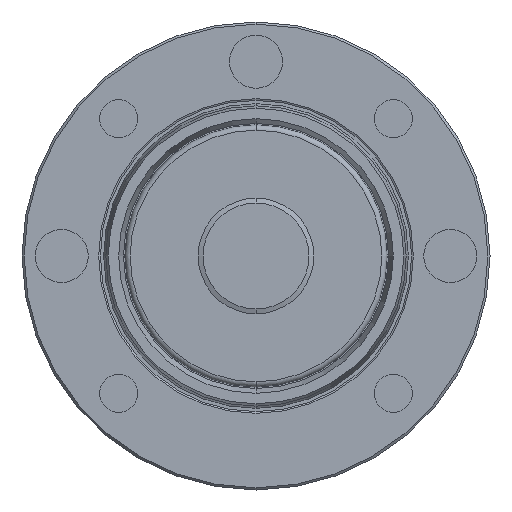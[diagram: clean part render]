
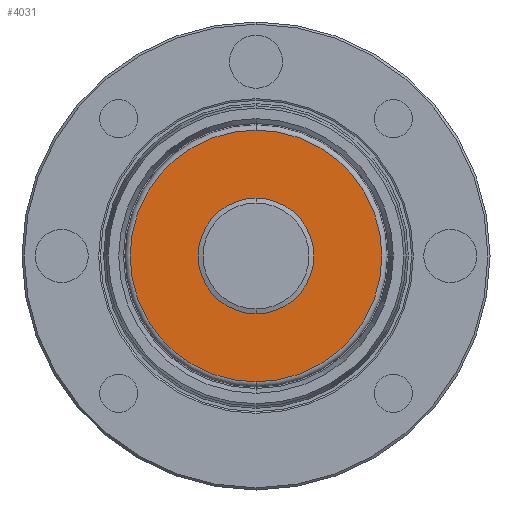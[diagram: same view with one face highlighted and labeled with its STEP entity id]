
A CAD part, front view. The second image highlights one B-rep face of the part: STEP entity #4031.
In plain terms, the highlighted planar face has unit normal (0, -1, 0).
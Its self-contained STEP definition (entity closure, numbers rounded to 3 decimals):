
#301 = DIRECTION ( 'NONE',  ( 0., 0., 1. ) ) ;
#302 = DIRECTION ( 'NONE',  ( 0., -1., 0. ) ) ;
#314 = CIRCLE ( 'NONE', #321, 14.25 ) ;
#321 = AXIS2_PLACEMENT_3D ( 'NONE', #323, #302, #301 ) ;
#323 = CARTESIAN_POINT ( 'NONE',  ( 0., -9.5, 0. ) ) ;
#380 = CARTESIAN_POINT ( 'NONE',  ( 0., -9.5, -14.25 ) ) ;
#422 = DIRECTION ( 'NONE',  ( 0., 0., 1. ) ) ;
#423 = DIRECTION ( 'NONE',  ( 0., 1., 0. ) ) ;
#424 = CARTESIAN_POINT ( 'NONE',  ( 0., -9.5, 0. ) ) ;
#426 = AXIS2_PLACEMENT_3D ( 'NONE', #424, #423, #422 ) ;
#431 = CIRCLE ( 'NONE', #426, 6.549 ) ;
#434 = CARTESIAN_POINT ( 'NONE',  ( 0., -9.5, 6.549 ) ) ;
#439 = CARTESIAN_POINT ( 'NONE',  ( 0., -9.5, -6.549 ) ) ;
#589 = AXIS2_PLACEMENT_3D ( 'NONE', #629, #670, #669 ) ;
#609 = CIRCLE ( 'NONE', #666, 6.549 ) ;
#613 = CIRCLE ( 'NONE', #589, 14.25 ) ;
#616 = DIRECTION ( 'NONE',  ( 0., 0., 1. ) ) ;
#617 = DIRECTION ( 'NONE',  ( 0., 1., 0. ) ) ;
#619 = AXIS2_PLACEMENT_3D ( 'NONE', #631, #617, #616 ) ;
#624 = FACE_BOUND ( 'NONE', #4038, .T. ) ;
#628 = PLANE ( 'NONE',  #619 ) ;
#629 = CARTESIAN_POINT ( 'NONE',  ( 0., -9.5, 0. ) ) ;
#631 = CARTESIAN_POINT ( 'NONE',  ( 14.85, -9.5, 0. ) ) ;
#636 = FACE_OUTER_BOUND ( 'NONE', #3992, .T. ) ;
#663 = DIRECTION ( 'NONE',  ( 0., 0., 1. ) ) ;
#664 = DIRECTION ( 'NONE',  ( 0., 1., 0. ) ) ;
#665 = CARTESIAN_POINT ( 'NONE',  ( 0., -9.5, 0. ) ) ;
#666 = AXIS2_PLACEMENT_3D ( 'NONE', #665, #664, #663 ) ;
#669 = DIRECTION ( 'NONE',  ( 0., 0., 1. ) ) ;
#670 = DIRECTION ( 'NONE',  ( 0., -1., 0. ) ) ;
#3835 = VERTEX_POINT ( 'NONE', #7723 ) ;
#3869 = EDGE_CURVE ( 'NONE', #3904, #3835, #314, .T. ) ;
#3904 = VERTEX_POINT ( 'NONE', #380 ) ;
#3936 = EDGE_CURVE ( 'NONE', #3937, #3939, #431, .T. ) ;
#3937 = VERTEX_POINT ( 'NONE', #434 ) ;
#3939 = VERTEX_POINT ( 'NONE', #439 ) ;
#3992 = EDGE_LOOP ( 'NONE', ( #4033, #4032 ) ) ;
#4031 = ADVANCED_FACE ( 'NONE', ( #636, #624 ), #628, .F. ) ;
#4032 = ORIENTED_EDGE ( 'NONE', *, *, #3869, .T. ) ;
#4033 = ORIENTED_EDGE ( 'NONE', *, *, #4035, .T. ) ;
#4034 = ORIENTED_EDGE ( 'NONE', *, *, #4036, .T. ) ;
#4035 = EDGE_CURVE ( 'NONE', #3835, #3904, #613, .T. ) ;
#4036 = EDGE_CURVE ( 'NONE', #3939, #3937, #609, .T. ) ;
#4038 = EDGE_LOOP ( 'NONE', ( #4039, #4034 ) ) ;
#4039 = ORIENTED_EDGE ( 'NONE', *, *, #3936, .T. ) ;
#7723 = CARTESIAN_POINT ( 'NONE',  ( 0., -9.5, 14.25 ) ) ;
